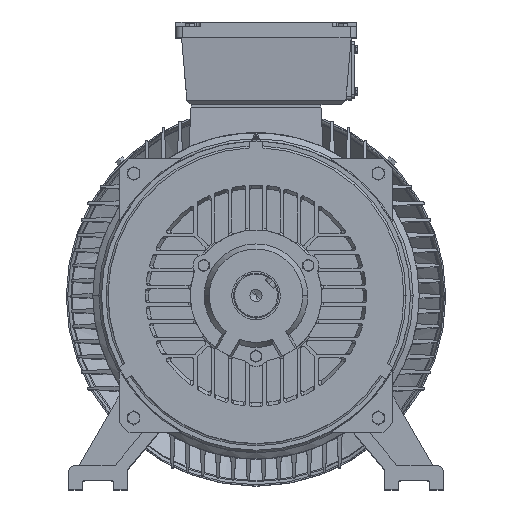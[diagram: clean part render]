
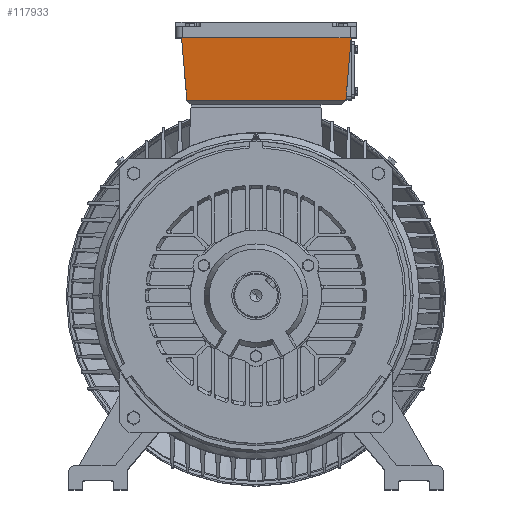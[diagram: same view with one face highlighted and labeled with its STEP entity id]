
A CAD part, top view. The second image highlights one B-rep face of the part: STEP entity #117933.
In plain terms, the highlighted planar face has unit normal (0, -0.085, 0.996) as drawn and (-0.996, -0.085, 0) by its records, which use the part's own axes.
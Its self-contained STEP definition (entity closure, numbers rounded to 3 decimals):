
#29972 = ORIENTED_EDGE ( 'NONE', *, *, #89394, .T. ) ;
#29977 = ORIENTED_EDGE ( 'NONE', *, *, #89306, .F. ) ;
#29982 = ORIENTED_EDGE ( 'NONE', *, *, #89289, .F. ) ;
#29989 = ORIENTED_EDGE ( 'NONE', *, *, #89358, .T. ) ;
#51444 = CARTESIAN_POINT ( 'NONE',  ( -100., -94., -115. ) ) ;
#51455 = DIRECTION ( 'NONE',  ( -0.084, 0.993, -0.084 ) ) ;
#51465 = CARTESIAN_POINT ( 'NONE',  ( -108., 0., 123. ) ) ;
#51487 = DIRECTION ( 'NONE',  ( 0., 0., 1. ) ) ;
#51569 = CARTESIAN_POINT ( 'NONE',  ( -100., -94., 115. ) ) ;
#51573 = DIRECTION ( 'NONE',  ( 0., 0., 1. ) ) ;
#51623 = CARTESIAN_POINT ( 'NONE',  ( -100., -94., 115. ) ) ;
#51626 = DIRECTION ( 'NONE',  ( -0.084, 0.993, 0.084 ) ) ;
#52609 = LINE ( 'NONE', #51444, #52618 ) ;
#52618 = VECTOR ( 'NONE', #51455, 1000. ) ;
#52624 = LINE ( 'NONE', #51465, #52636 ) ;
#52636 = VECTOR ( 'NONE', #51487, 1000. ) ;
#52682 = LINE ( 'NONE', #51569, #52688 ) ;
#52688 = VECTOR ( 'NONE', #51573, 1000. ) ;
#52721 = LINE ( 'NONE', #51623, #52727 ) ;
#52727 = VECTOR ( 'NONE', #51626, 1000. ) ;
#54694 = FACE_OUTER_BOUND ( 'NONE', #112469, .T. ) ;
#59464 = CARTESIAN_POINT ( 'NONE',  ( -107.223, -9.125, 0. ) ) ;
#59486 = PLANE ( 'NONE',  #195501 ) ;
#59492 = DIRECTION ( 'NONE',  ( 0.996, 0.085, 0. ) ) ;
#59495 = DIRECTION ( 'NONE',  ( -0.085, 0.996, 0. ) ) ;
#85041 = CARTESIAN_POINT ( 'NONE',  ( -100., -94., 115. ) ) ;
#85044 = CARTESIAN_POINT ( 'NONE',  ( -100., -94., -115. ) ) ;
#85050 = CARTESIAN_POINT ( 'NONE',  ( -108., 0., 123. ) ) ;
#85099 = CARTESIAN_POINT ( 'NONE',  ( -108., 0., -123. ) ) ;
#89289 = EDGE_CURVE ( 'NONE', #129877, #129938, #52609, .T. ) ;
#89306 = EDGE_CURVE ( 'NONE', #129938, #129882, #52624, .T. ) ;
#89358 = EDGE_CURVE ( 'NONE', #129877, #129875, #52682, .T. ) ;
#89394 = EDGE_CURVE ( 'NONE', #129875, #129882, #52721, .T. ) ;
#112469 = EDGE_LOOP ( 'NONE', ( #29972, #29977, #29982, #29989 ) ) ;
#117933 = ADVANCED_FACE ( 'NONE', ( #54694 ), #59486, .F. ) ;
#129875 = VERTEX_POINT ( 'NONE', #85041 ) ;
#129877 = VERTEX_POINT ( 'NONE', #85044 ) ;
#129882 = VERTEX_POINT ( 'NONE', #85050 ) ;
#129938 = VERTEX_POINT ( 'NONE', #85099 ) ;
#195501 = AXIS2_PLACEMENT_3D ( 'NONE', #59464, #59492, #59495 ) ;
